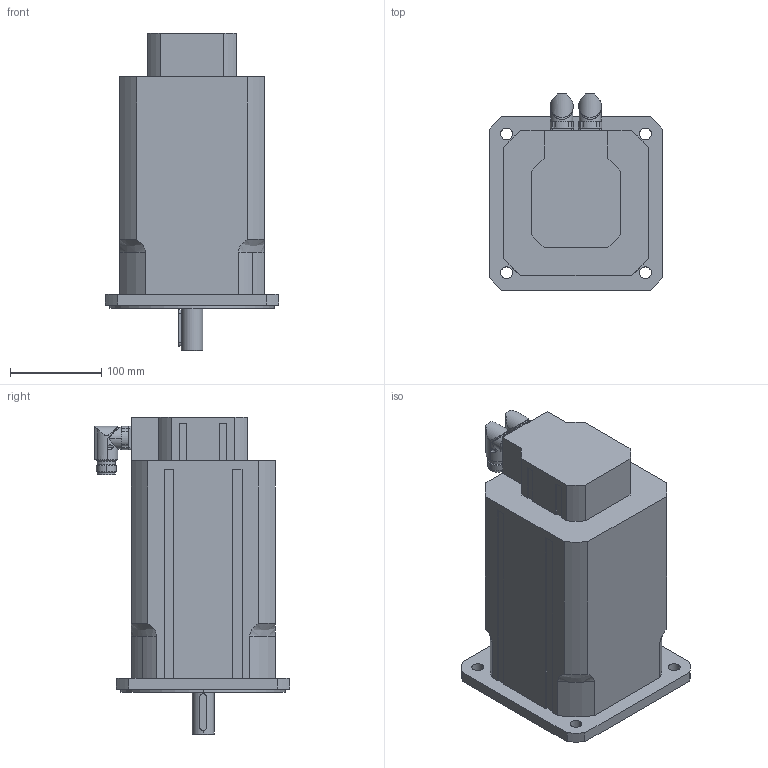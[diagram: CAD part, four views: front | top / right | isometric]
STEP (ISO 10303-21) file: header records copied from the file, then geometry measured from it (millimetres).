
FILE_DESCRIPTION(('STEP AP203'),'2;1');
FILE_NAME('MT6-1900_BX.stp','2006-08-28T21:00:00',(''),(''),'2005.2.102','THINKDESIGN','');
FILE_SCHEMA(('CONFIG_CONTROL_DESIGN'));
Length unit declared in the file: millimetre
Bounding box: 190 x 214.5 x 348 mm (x, y, z)
Volume: 6794343.4 mm3; surface area: 272477.3 mm2
Topology: 3 solids, 3 shells, 258 faces, 685 edges, 443 vertices
Faces by surface type: cylinder 112, plane 108, bspline 38
Full cylindrical faces by diameter (mm): 20 x2
Entity records: 9380 total; most frequent: CARTESIAN_POINT 2860, ORIENTED_EDGE 1366, DIRECTION 1343, EDGE_CURVE 683, AXIS2_PLACEMENT_3D 500, VERTEX_POINT 443, VECTOR 343, LINE 343
